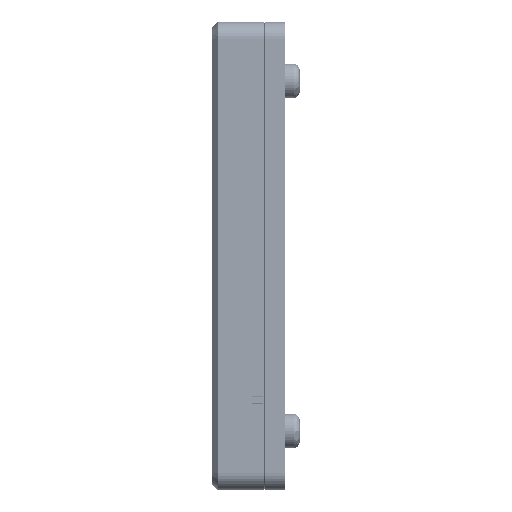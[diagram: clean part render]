
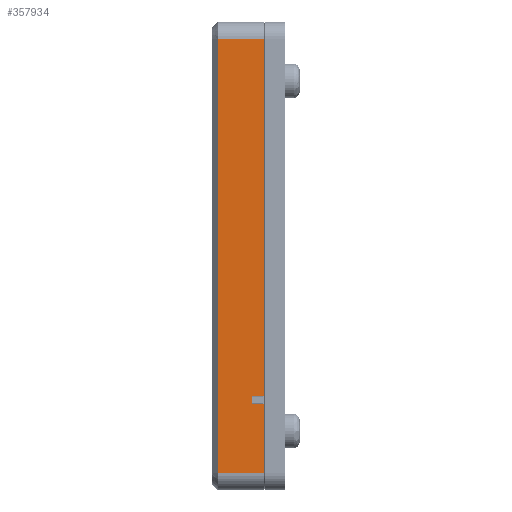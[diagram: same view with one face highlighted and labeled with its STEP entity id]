
A CAD part, left-side view. The second image highlights one B-rep face of the part: STEP entity #357934.
In plain terms, the highlighted planar face has unit normal (-1, 0, 0) as drawn and (1, 0, 0) by its records, which use the part's own axes.
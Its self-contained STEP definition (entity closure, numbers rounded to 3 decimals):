
#1496 = VERTEX_POINT ( 'NONE', #159031 ) ;
#5620 = CARTESIAN_POINT ( 'NONE',  ( 67.5, 14.8, 62.5 ) ) ;
#12288 = DIRECTION ( 'NONE',  ( 0., 0., 1. ) ) ;
#13401 = VECTOR ( 'NONE', #12288, 1000. ) ;
#14403 = VECTOR ( 'NONE', #99611, 1000. ) ;
#17486 = DIRECTION ( 'NONE',  ( 0., 1., 0. ) ) ;
#32110 = LINE ( 'NONE', #66746, #455195 ) ;
#32467 = VECTOR ( 'NONE', #46729, 1000. ) ;
#35063 = EDGE_CURVE ( 'NONE', #114387, #102469, #182429, .T. ) ;
#38795 = VERTEX_POINT ( 'NONE', #319935 ) ;
#42841 = LINE ( 'NONE', #353180, #441491 ) ;
#46729 = DIRECTION ( 'NONE',  ( 0., -1., 0. ) ) ;
#52101 = CARTESIAN_POINT ( 'NONE',  ( 67.5, 15., -40.35 ) ) ;
#59882 = DIRECTION ( 'NONE',  ( 0., -1., 0. ) ) ;
#59997 = EDGE_LOOP ( 'NONE', ( #144358, #75425, #429894, #439590, #93112, #210069, #379681, #115499 ) ) ;
#66746 = CARTESIAN_POINT ( 'NONE',  ( 67.5, 15., 62.5 ) ) ;
#67913 = CARTESIAN_POINT ( 'NONE',  ( 67.5, 14.8, -62.5 ) ) ;
#74142 = VERTEX_POINT ( 'NONE', #427247 ) ;
#75425 = ORIENTED_EDGE ( 'NONE', *, *, #35063, .T. ) ;
#77277 = CARTESIAN_POINT ( 'NONE',  ( 67.5, 15., 62.5 ) ) ;
#79250 = DIRECTION ( 'NONE',  ( 0., 0., 1. ) ) ;
#92057 = EDGE_CURVE ( 'NONE', #444931, #74142, #143141, .T. ) ;
#93112 = ORIENTED_EDGE ( 'NONE', *, *, #309370, .T. ) ;
#99611 = DIRECTION ( 'NONE',  ( 0., 0., 1. ) ) ;
#102469 = VERTEX_POINT ( 'NONE', #408892 ) ;
#114387 = VERTEX_POINT ( 'NONE', #67913 ) ;
#115499 = ORIENTED_EDGE ( 'NONE', *, *, #362859, .T. ) ;
#135271 = CARTESIAN_POINT ( 'NONE',  ( 67.5, 1.5, -62.5 ) ) ;
#140909 = CARTESIAN_POINT ( 'NONE',  ( 67.5, 11.4, 62.5 ) ) ;
#143141 = LINE ( 'NONE', #140909, #14403 ) ;
#144358 = ORIENTED_EDGE ( 'NONE', *, *, #375287, .F. ) ;
#145592 = CARTESIAN_POINT ( 'NONE',  ( 67.5, 15., -62.5 ) ) ;
#148025 = CARTESIAN_POINT ( 'NONE',  ( 67.5, 14.8, 62.5 ) ) ;
#148502 = VERTEX_POINT ( 'NONE', #221365 ) ;
#155510 = DIRECTION ( 'NONE',  ( 0., -1., 0. ) ) ;
#159031 = CARTESIAN_POINT ( 'NONE',  ( 67.5, 14.8, -40.35 ) ) ;
#164760 = CARTESIAN_POINT ( 'NONE',  ( 67.5, 11.4, -42.65 ) ) ;
#180576 = DIRECTION ( 'NONE',  ( 0., 0., 1. ) ) ;
#182429 = LINE ( 'NONE', #148025, #13401 ) ;
#182953 = DIRECTION ( 'NONE',  ( 0., 0., -1. ) ) ;
#207406 = VERTEX_POINT ( 'NONE', #135271 ) ;
#210069 = ORIENTED_EDGE ( 'NONE', *, *, #356746, .T. ) ;
#217331 = PLANE ( 'NONE',  #451895 ) ;
#221323 = LINE ( 'NONE', #145592, #32467 ) ;
#221365 = CARTESIAN_POINT ( 'NONE',  ( 67.5, 14.8, 62.5 ) ) ;
#230784 = EDGE_CURVE ( 'NONE', #148502, #38795, #32110, .T. ) ;
#231794 = EDGE_CURVE ( 'NONE', #102469, #444931, #288935, .T. ) ;
#253329 = VECTOR ( 'NONE', #79250, 1000. ) ;
#254089 = FACE_OUTER_BOUND ( 'NONE', #59997, .T. ) ;
#258992 = CARTESIAN_POINT ( 'NONE',  ( 67.5, 15., -42.65 ) ) ;
#288935 = LINE ( 'NONE', #258992, #337062 ) ;
#293665 = VECTOR ( 'NONE', #17486, 1000. ) ;
#309370 = EDGE_CURVE ( 'NONE', #74142, #1496, #403910, .T. ) ;
#319935 = CARTESIAN_POINT ( 'NONE',  ( 67.5, 1.5, 62.5 ) ) ;
#320572 = LINE ( 'NONE', #5620, #253329 ) ;
#337062 = VECTOR ( 'NONE', #155510, 1000. ) ;
#353180 = CARTESIAN_POINT ( 'NONE',  ( 67.5, 1.5, -62.5 ) ) ;
#356746 = EDGE_CURVE ( 'NONE', #1496, #148502, #320572, .T. ) ;
#357934 = ADVANCED_FACE ( 'NONE', ( #254089 ), #217331, .F. ) ;
#362859 = EDGE_CURVE ( 'NONE', #38795, #207406, #42841, .T. ) ;
#375287 = EDGE_CURVE ( 'NONE', #114387, #207406, #221323, .T. ) ;
#379681 = ORIENTED_EDGE ( 'NONE', *, *, #230784, .T. ) ;
#392241 = DIRECTION ( 'NONE',  ( -1., 0., 0. ) ) ;
#403910 = LINE ( 'NONE', #52101, #293665 ) ;
#408892 = CARTESIAN_POINT ( 'NONE',  ( 67.5, 14.8, -42.65 ) ) ;
#427247 = CARTESIAN_POINT ( 'NONE',  ( 67.5, 11.4, -40.35 ) ) ;
#429894 = ORIENTED_EDGE ( 'NONE', *, *, #231794, .T. ) ;
#439590 = ORIENTED_EDGE ( 'NONE', *, *, #92057, .T. ) ;
#441491 = VECTOR ( 'NONE', #182953, 1000. ) ;
#444931 = VERTEX_POINT ( 'NONE', #164760 ) ;
#451895 = AXIS2_PLACEMENT_3D ( 'NONE', #77277, #392241, #180576 ) ;
#455195 = VECTOR ( 'NONE', #59882, 1000. ) ;
